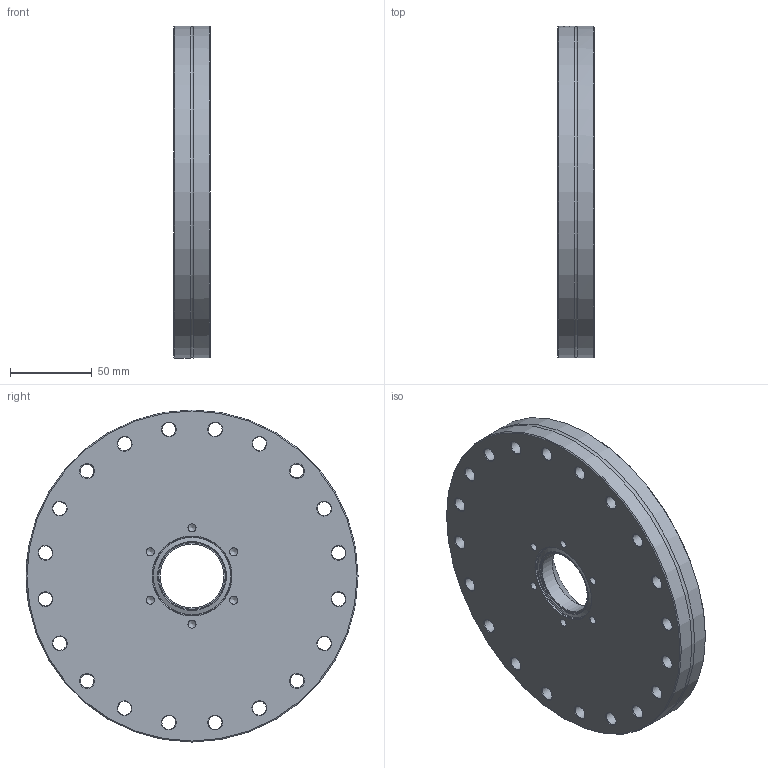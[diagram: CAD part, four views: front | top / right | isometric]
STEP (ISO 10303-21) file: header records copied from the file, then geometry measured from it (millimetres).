
FILE_DESCRIPTION((''),'2;1');
FILE_NAME('W:\13785_CF_Global_Fit_Umsetzung\097_Reducing_Flange\M213-178.stp','2010-09-01T12:54:31',('KAA'),(''),'Autodesk Inventor 2011','Autodesk Inventor 2011','');
FILE_SCHEMA(('AUTOMOTIVE_DESIGN { 1 0 10303 214 1 1 1 1 }'));
Length unit declared in the file: millimetre
Products named in the file (1): 213-178
Bounding box: 22 x 202.5 x 202.5 mm (x, y, z)
Volume: 617470.5 mm3; surface area: 88886.1 mm2
Topology: 1 solids, 1 shells, 190 faces, 493 edges, 315 vertices
Faces by surface type: cone 58, plane 51, cylinder 39, bspline 35, torus 7
Full cylindrical faces by diameter (mm): 4.917 x6, 8.4 x20, 39 x1, 202.5 x2
Entity records: 14456 total; most frequent: CARTESIAN_POINT 10477, ORIENTED_EDGE 742, DIRECTION 708, EDGE_CURVE 371, EDGE_LOOP 335, AXIS2_PLACEMENT_3D 300, VERTEX_POINT 286, FACE_OUTER_BOUND 190
